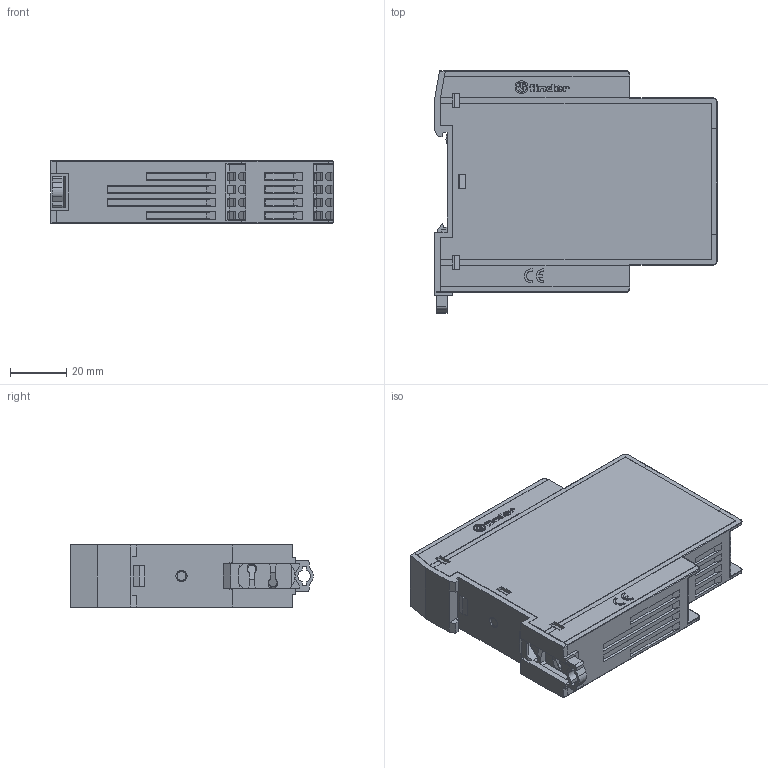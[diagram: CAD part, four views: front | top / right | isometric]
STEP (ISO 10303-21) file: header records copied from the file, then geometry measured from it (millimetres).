
FILE_DESCRIPTION(/* description */ ('Unknown'),/* implementation_level */ '2;1');
FILE_NAME(/* name */ '7S43',/* time_stamp */ '2018-02-12T16:07:26+01:00',/* author */ ('Unknown'),/* organization */ ('Unknown'),/* preprocessor_version */ 'ST-DEVELOPER v16.7',/* originating_system */ 'DEX',/* authorisation */ $);
FILE_SCHEMA (('TECHNICAL_DATA_PACKAGING','AUTOMOTIVE_DESIGN {1 0 10303 214 3 1 1}'));
Products named in the file (1): 7S43
Bounding box: 100.3 x 86.25 x 22.5 mm (x, y, z)
Surface area: 45405.2 mm2 (no closed solid volume)
Topology: 0 solids, 74 shells, 1300 faces, 4870 edges, 3578 vertices
Faces by surface type: plane 936, cylinder 319, bspline 45
Full cylindrical faces by diameter (mm): 3 x2, 4.566 x2
Entity records: 60434 total; most frequent: CARTESIAN_POINT 13516, DIRECTION 7595, ORIENTED_EDGE 7539, EDGE_CURVE 4862, LINE 3903, VECTOR 3903, VERTEX_POINT 3575, AXIS2_PLACEMENT_3D 1846
